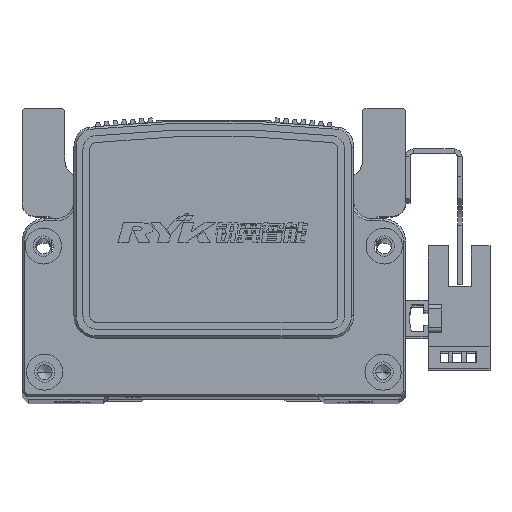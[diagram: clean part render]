
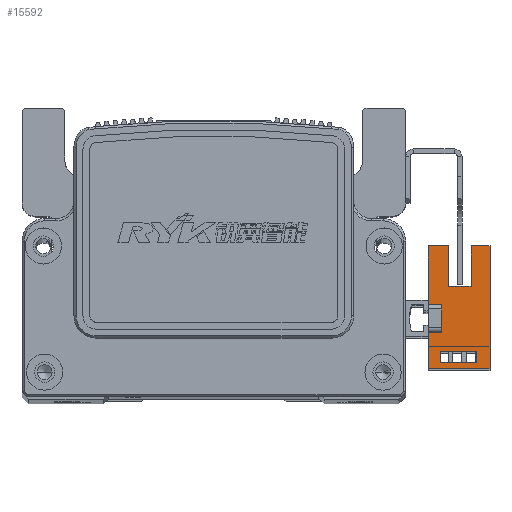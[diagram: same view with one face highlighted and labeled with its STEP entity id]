
A CAD part, top view. The second image highlights one B-rep face of the part: STEP entity #15592.
In plain terms, the highlighted planar face has unit normal (0, 0, 1) as drawn and (1, 0, 0) by its records, which use the part's own axes.
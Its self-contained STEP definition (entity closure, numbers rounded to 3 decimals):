
#4743 = EDGE_CURVE ( 'NONE', #53181, #53201, #44059, .T. ) ;
#4840 = EDGE_CURVE ( 'NONE', #53178, #53177, #44133, .T. ) ;
#4871 = EDGE_CURVE ( 'NONE', #53180, #30422, #44291, .T. ) ;
#4921 = EDGE_CURVE ( 'NONE', #53204, #53180, #44346, .T. ) ;
#4942 = EDGE_CURVE ( 'NONE', #30363, #30395, #44395, .T. ) ;
#4945 = EDGE_CURVE ( 'NONE', #30370, #30366, #44429, .T. ) ;
#4954 = EDGE_CURVE ( 'NONE', #30395, #53177, #44332, .T. ) ;
#4968 = EDGE_CURVE ( 'NONE', #30444, #53178, #44416, .T. ) ;
#4974 = EDGE_CURVE ( 'NONE', #30366, #30428, #44372, .T. ) ;
#4980 = EDGE_CURVE ( 'NONE', #53201, #31351, #44455, .T. ) ;
#4986 = EDGE_CURVE ( 'NONE', #30408, #53181, #44459, .T. ) ;
#5005 = EDGE_CURVE ( 'NONE', #31351, #30363, #44474, .T. ) ;
#5007 = EDGE_CURVE ( 'NONE', #30396, #30370, #44478, .T. ) ;
#5015 = EDGE_CURVE ( 'NONE', #30422, #30444, #44566, .T. ) ;
#5031 = EDGE_CURVE ( 'NONE', #30428, #30396, #44558, .T. ) ;
#5049 = EDGE_CURVE ( 'NONE', #30408, #53204, #44591, .T. ) ;
#11776 = CARTESIAN_POINT ( 'NONE',  ( 3.2, 3.1, 3. ) ) ;
#11778 = CARTESIAN_POINT ( 'NONE',  ( 3.2, 16.1, -6.5 ) ) ;
#11803 = CARTESIAN_POINT ( 'NONE',  ( 3.2, -11.1, 3. ) ) ;
#11806 = CARTESIAN_POINT ( 'NONE',  ( 3.2, 16.1, -10.7 ) ) ;
#11812 = CARTESIAN_POINT ( 'NONE',  ( 3.2, -3.1, 3. ) ) ;
#11827 = CARTESIAN_POINT ( 'NONE',  ( 3.2, 16.1, 3. ) ) ;
#15592 = ADVANCED_FACE ( 'NONE', ( #20496, #20509 ), #22225, .T. ) ;
#17030 = EDGE_LOOP ( 'NONE', ( #36840, #36852, #36838, #36861, #36849, #36845, #36792, #36848, #36842, #36754, #36879, #36764 ) ) ;
#17052 = EDGE_LOOP ( 'NONE', ( #36856, #36755, #36839, #36851 ) ) ;
#19143 = AXIS2_PLACEMENT_3D ( 'NONE', #22205, #22233, #22209 ) ;
#20496 = FACE_OUTER_BOUND ( 'NONE', #17030, .T. ) ;
#20509 = FACE_BOUND ( 'NONE', #17052, .T. ) ;
#22205 = CARTESIAN_POINT ( 'NONE',  ( 3.2, 16.1, -10.7 ) ) ;
#22209 = DIRECTION ( 'NONE',  ( 0., 1., 0. ) ) ;
#22225 = PLANE ( 'NONE',  #19143 ) ;
#22233 = DIRECTION ( 'NONE',  ( 1., 0., 0. ) ) ;
#23362 = CARTESIAN_POINT ( 'NONE',  ( 3.2, -9.83, 0.3 ) ) ;
#23377 = CARTESIAN_POINT ( 'NONE',  ( 3.2, -7.33, -7.7 ) ) ;
#23378 = CARTESIAN_POINT ( 'NONE',  ( 3.2, 7.1, -1.5 ) ) ;
#23380 = CARTESIAN_POINT ( 'NONE',  ( 3.2, -7.33, 0.3 ) ) ;
#23397 = CARTESIAN_POINT ( 'NONE',  ( 3.2, 16.1, -1.5 ) ) ;
#23418 = CARTESIAN_POINT ( 'NONE',  ( 3.2, 3.1, 0. ) ) ;
#23433 = CARTESIAN_POINT ( 'NONE',  ( 3.2, -11.1, -10.7 ) ) ;
#23460 = CARTESIAN_POINT ( 'NONE',  ( 3.2, -3.1, 0. ) ) ;
#23472 = CARTESIAN_POINT ( 'NONE',  ( 3.2, -9.83, -7.7 ) ) ;
#23829 = CARTESIAN_POINT ( 'NONE',  ( 3.2, 7.1, -6.5 ) ) ;
#30363 = VERTEX_POINT ( 'NONE', #23378 ) ;
#30366 = VERTEX_POINT ( 'NONE', #23362 ) ;
#30370 = VERTEX_POINT ( 'NONE', #23380 ) ;
#30395 = VERTEX_POINT ( 'NONE', #23397 ) ;
#30396 = VERTEX_POINT ( 'NONE', #23377 ) ;
#30408 = VERTEX_POINT ( 'NONE', #23433 ) ;
#30422 = VERTEX_POINT ( 'NONE', #23460 ) ;
#30428 = VERTEX_POINT ( 'NONE', #23472 ) ;
#30444 = VERTEX_POINT ( 'NONE', #23418 ) ;
#31351 = VERTEX_POINT ( 'NONE', #23829 ) ;
#36754 = ORIENTED_EDGE ( 'NONE', *, *, #5049, .F. ) ;
#36755 = ORIENTED_EDGE ( 'NONE', *, *, #5007, .F. ) ;
#36764 = ORIENTED_EDGE ( 'NONE', *, *, #4743, .T. ) ;
#36792 = ORIENTED_EDGE ( 'NONE', *, *, #5015, .F. ) ;
#36838 = ORIENTED_EDGE ( 'NONE', *, *, #4942, .T. ) ;
#36839 = ORIENTED_EDGE ( 'NONE', *, *, #5031, .F. ) ;
#36840 = ORIENTED_EDGE ( 'NONE', *, *, #4980, .T. ) ;
#36842 = ORIENTED_EDGE ( 'NONE', *, *, #4921, .F. ) ;
#36845 = ORIENTED_EDGE ( 'NONE', *, *, #4968, .F. ) ;
#36848 = ORIENTED_EDGE ( 'NONE', *, *, #4871, .F. ) ;
#36849 = ORIENTED_EDGE ( 'NONE', *, *, #4840, .F. ) ;
#36851 = ORIENTED_EDGE ( 'NONE', *, *, #4974, .F. ) ;
#36852 = ORIENTED_EDGE ( 'NONE', *, *, #5005, .T. ) ;
#36856 = ORIENTED_EDGE ( 'NONE', *, *, #4945, .F. ) ;
#36861 = ORIENTED_EDGE ( 'NONE', *, *, #4954, .T. ) ;
#36879 = ORIENTED_EDGE ( 'NONE', *, *, #4986, .T. ) ;
#39154 = DIRECTION ( 'NONE',  ( 0., 0., 1. ) ) ;
#39187 = CARTESIAN_POINT ( 'NONE',  ( 3.2, 16.1, -10.7 ) ) ;
#39277 = CARTESIAN_POINT ( 'NONE',  ( 3.2, 16.1, 3. ) ) ;
#39280 = DIRECTION ( 'NONE',  ( 0., 1., 0. ) ) ;
#39320 = CARTESIAN_POINT ( 'NONE',  ( 3.2, -3.1, 3. ) ) ;
#39349 = DIRECTION ( 'NONE',  ( 0., 0., -1. ) ) ;
#39399 = DIRECTION ( 'NONE',  ( 0., 1., 0. ) ) ;
#39402 = CARTESIAN_POINT ( 'NONE',  ( 3.2, 16.1, 3. ) ) ;
#39406 = DIRECTION ( 'NONE',  ( 0., 1., 0. ) ) ;
#39410 = CARTESIAN_POINT ( 'NONE',  ( 3.2, 25.1, -1.5 ) ) ;
#39417 = CARTESIAN_POINT ( 'NONE',  ( 3.2, 16.1, -10.7 ) ) ;
#39422 = DIRECTION ( 'NONE',  ( 0., 0., 1. ) ) ;
#39428 = DIRECTION ( 'NONE',  ( 0., -1., 0. ) ) ;
#39441 = CARTESIAN_POINT ( 'NONE',  ( 3.2, 16.1, 0.3 ) ) ;
#39452 = CARTESIAN_POINT ( 'NONE',  ( 3.2, 16.1, -10.7 ) ) ;
#39456 = DIRECTION ( 'NONE',  ( 0., 0., 1. ) ) ;
#39464 = CARTESIAN_POINT ( 'NONE',  ( 3.2, -9.83, -10.7 ) ) ;
#39470 = CARTESIAN_POINT ( 'NONE',  ( 3.2, 3.1, 3. ) ) ;
#39472 = CARTESIAN_POINT ( 'NONE',  ( 3.2, 25.1, -6.5 ) ) ;
#39477 = DIRECTION ( 'NONE',  ( 0., 0., -1. ) ) ;
#39482 = DIRECTION ( 'NONE',  ( 0., -1., 0. ) ) ;
#39489 = DIRECTION ( 'NONE',  ( 0., 0., 1. ) ) ;
#39492 = DIRECTION ( 'NONE',  ( 0., 1., 0. ) ) ;
#39494 = DIRECTION ( 'NONE',  ( 0., 1., 0. ) ) ;
#39505 = DIRECTION ( 'NONE',  ( 0., 0., 1. ) ) ;
#39511 = CARTESIAN_POINT ( 'NONE',  ( 3.2, 0., 0. ) ) ;
#39518 = CARTESIAN_POINT ( 'NONE',  ( 3.2, -7.33, -10.7 ) ) ;
#39522 = CARTESIAN_POINT ( 'NONE',  ( 3.2, 7.1, -6.5 ) ) ;
#39533 = DIRECTION ( 'NONE',  ( 0., 0., 1. ) ) ;
#39545 = DIRECTION ( 'NONE',  ( 0., 1., 0. ) ) ;
#39552 = CARTESIAN_POINT ( 'NONE',  ( 3.2, -11.1, 3. ) ) ;
#39563 = CARTESIAN_POINT ( 'NONE',  ( 3.2, 16.1, -7.7 ) ) ;
#43995 = VECTOR ( 'NONE', #39154, 1000. ) ;
#44059 = LINE ( 'NONE', #39187, #43995 ) ;
#44133 = LINE ( 'NONE', #39277, #44203 ) ;
#44203 = VECTOR ( 'NONE', #39280, 1000. ) ;
#44291 = LINE ( 'NONE', #39320, #44324 ) ;
#44324 = VECTOR ( 'NONE', #39349, 1000. ) ;
#44332 = LINE ( 'NONE', #39417, #44436 ) ;
#44338 = VECTOR ( 'NONE', #39406, 1000. ) ;
#44346 = LINE ( 'NONE', #39402, #44338 ) ;
#44360 = VECTOR ( 'NONE', #39456, 1000. ) ;
#44372 = LINE ( 'NONE', #39464, #44384 ) ;
#44384 = VECTOR ( 'NONE', #39477, 1000. ) ;
#44395 = LINE ( 'NONE', #39410, #44404 ) ;
#44404 = VECTOR ( 'NONE', #39399, 1000. ) ;
#44416 = LINE ( 'NONE', #39470, #44360 ) ;
#44429 = LINE ( 'NONE', #39441, #44448 ) ;
#44436 = VECTOR ( 'NONE', #39422, 1000. ) ;
#44448 = VECTOR ( 'NONE', #39428, 1000. ) ;
#44451 = VECTOR ( 'NONE', #39505, 1000. ) ;
#44455 = LINE ( 'NONE', #39472, #44544 ) ;
#44459 = LINE ( 'NONE', #39452, #44563 ) ;
#44474 = LINE ( 'NONE', #39522, #44510 ) ;
#44478 = LINE ( 'NONE', #39518, #44451 ) ;
#44499 = VECTOR ( 'NONE', #39545, 1000. ) ;
#44510 = VECTOR ( 'NONE', #39489, 1000. ) ;
#44544 = VECTOR ( 'NONE', #39482, 1000. ) ;
#44558 = LINE ( 'NONE', #39563, #44499 ) ;
#44563 = VECTOR ( 'NONE', #39494, 1000. ) ;
#44566 = LINE ( 'NONE', #39511, #44568 ) ;
#44568 = VECTOR ( 'NONE', #39492, 1000. ) ;
#44591 = LINE ( 'NONE', #39552, #44668 ) ;
#44668 = VECTOR ( 'NONE', #39533, 1000. ) ;
#53177 = VERTEX_POINT ( 'NONE', #11827 ) ;
#53178 = VERTEX_POINT ( 'NONE', #11776 ) ;
#53180 = VERTEX_POINT ( 'NONE', #11812 ) ;
#53181 = VERTEX_POINT ( 'NONE', #11806 ) ;
#53201 = VERTEX_POINT ( 'NONE', #11778 ) ;
#53204 = VERTEX_POINT ( 'NONE', #11803 ) ;
